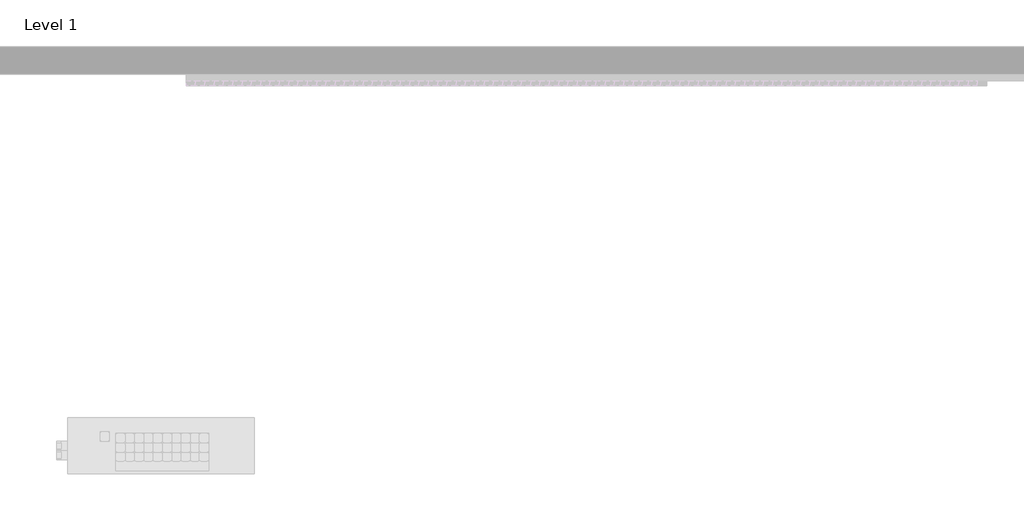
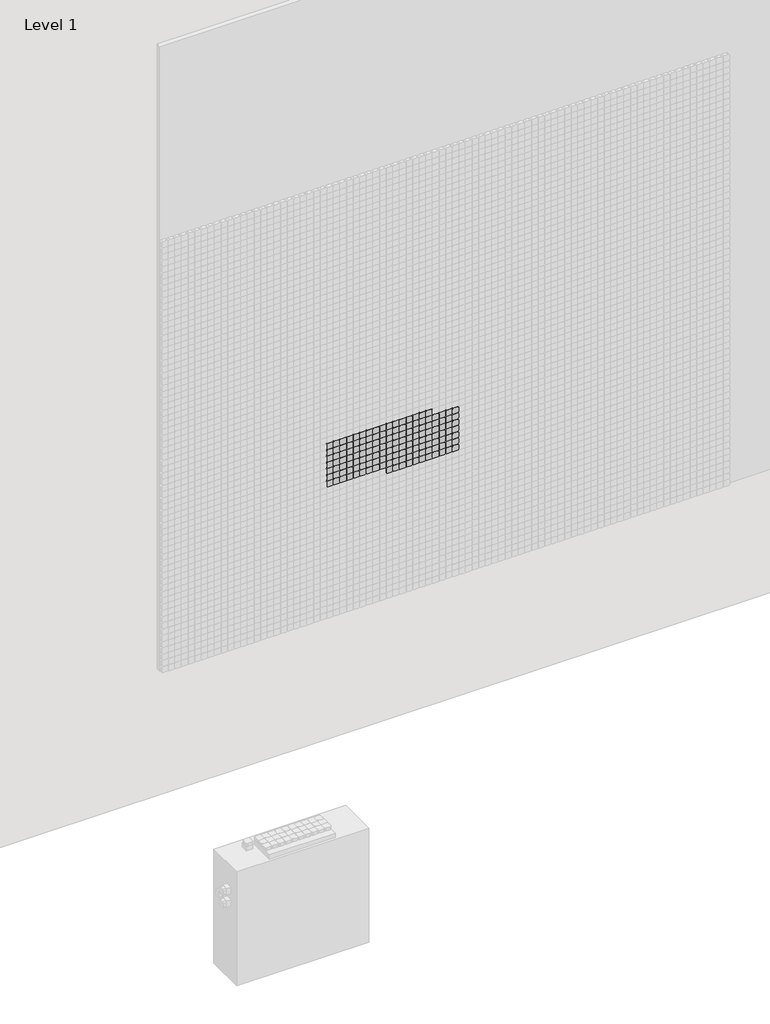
# One storey, part 31 of 71: 147 proxies.
"""IFC4 building model written with IfcOpenShell, lengths in millimetres."""

from ifc_helpers import new_model, si_unit, origin, place, context, project, spatial, transform, mapped, element, save
from components import generic_models_afde289c

model = new_model("IFC4")

# Units and contexts
model_context = context("Model", 3, world=origin())
ifc_project = project(units=[si_unit("LENGTHUNIT", "METRE", prefix="MILLI")], contexts=[model_context])

# Site, building, storey
site = spatial("IfcSite", under=ifc_project)
building = spatial("IfcBuilding", under=site)
storey = spatial("IfcBuildingStorey", under=building, Name="Level 1", Elevation=0.0)

# Proxies
placement = place(None, origin())
generic_models_shape = generic_models_afde289c(model_context)
element("IfcBuildingElementProxy", 1, Name="Pixel_M : Pixel_M", ObjectType="Pixel_M : Pixel_M", at=placement, inside=storey, context=model_context, shape_type="MappedRepresentation", body=[
    mapped(generic_models_shape, transform((6762.4280941, -75.0, 2366.3566215), x_axis=(1.0, 0.0, 0.0), y_axis=(0.0, 0.0, 1.0), z_axis=(0.0, -1.0, 0.0))),
])
element("IfcBuildingElementProxy", 2, Name="Pixel_M : Pixel_M", ObjectType="Pixel_M : Pixel_M", at=placement, inside=storey, context=model_context, shape_type="MappedRepresentation", body=[
    mapped(generic_models_shape, transform((6712.4280941, -75.0, 2366.3566215), x_axis=(1.0, 0.0, 0.0), y_axis=(0.0, 0.0, 1.0), z_axis=(0.0, -1.0, 0.0))),
])
element("IfcBuildingElementProxy", 3, Name="Pixel_M : Pixel_M", ObjectType="Pixel_M : Pixel_M", at=placement, inside=storey, context=model_context, shape_type="MappedRepresentation", body=[
    mapped(generic_models_shape, transform((6662.4280941, -75.0, 2366.3566215), x_axis=(1.0, 0.0, 0.0), y_axis=(0.0, 0.0, 1.0), z_axis=(0.0, -1.0, 0.0))),
])
element("IfcBuildingElementProxy", 4, Name="Pixel_M : Pixel_M", ObjectType="Pixel_M : Pixel_M", at=placement, inside=storey, context=model_context, shape_type="MappedRepresentation", body=[
    mapped(generic_models_shape, transform((6612.4280941, -75.0, 2366.3566215), x_axis=(1.0, 0.0, 0.0), y_axis=(0.0, 0.0, 1.0), z_axis=(0.0, -1.0, 0.0))),
])
element("IfcBuildingElementProxy", 5, Name="Pixel_M : Pixel_M", ObjectType="Pixel_M : Pixel_M", at=placement, inside=storey, context=model_context, shape_type="MappedRepresentation", body=[
    mapped(generic_models_shape, transform((6562.4280941, -75.0, 2366.3566215), x_axis=(1.0, 0.0, 0.0), y_axis=(0.0, 0.0, 1.0), z_axis=(0.0, -1.0, 0.0))),
])
element("IfcBuildingElementProxy", 6, Name="Pixel_M : Pixel_M", ObjectType="Pixel_M : Pixel_M", at=placement, inside=storey, context=model_context, shape_type="MappedRepresentation", body=[
    mapped(generic_models_shape, transform((6512.4280941, -75.0, 2366.3566215), x_axis=(1.0, 0.0, 0.0), y_axis=(0.0, 0.0, 1.0), z_axis=(0.0, -1.0, 0.0))),
])
element("IfcBuildingElementProxy", 7, Name="Pixel_M : Pixel_M", ObjectType="Pixel_M : Pixel_M", at=placement, inside=storey, context=model_context, shape_type="MappedRepresentation", body=[
    mapped(generic_models_shape, transform((6462.4280941, -75.0, 2366.3566215), x_axis=(1.0, 0.0, 0.0), y_axis=(0.0, 0.0, 1.0), z_axis=(0.0, -1.0, 0.0))),
])
element("IfcBuildingElementProxy", 8, Name="Pixel_M : Pixel_M", ObjectType="Pixel_M : Pixel_M", at=placement, inside=storey, context=model_context, shape_type="MappedRepresentation", body=[
    mapped(generic_models_shape, transform((6412.4280941, -75.0, 2366.3566215), x_axis=(1.0, 0.0, 0.0), y_axis=(0.0, 0.0, 1.0), z_axis=(0.0, -1.0, 0.0))),
])
element("IfcBuildingElementProxy", 9, Name="Pixel_M : Pixel_M", ObjectType="Pixel_M : Pixel_M", at=placement, inside=storey, context=model_context, shape_type="MappedRepresentation", body=[
    mapped(generic_models_shape, transform((6362.4280941, -75.0, 2366.3566215), x_axis=(1.0, 0.0, 0.0), y_axis=(0.0, 0.0, 1.0), z_axis=(0.0, -1.0, 0.0))),
])
element("IfcBuildingElementProxy", 10, Name="Pixel_M : Pixel_M", ObjectType="Pixel_M : Pixel_M", at=placement, inside=storey, context=model_context, shape_type="MappedRepresentation", body=[
    mapped(generic_models_shape, transform((6312.4280941, -75.0, 2366.3566215), x_axis=(1.0, 0.0, 0.0), y_axis=(0.0, 0.0, 1.0), z_axis=(0.0, -1.0, 0.0))),
])
element("IfcBuildingElementProxy", 11, Name="Pixel_M : Pixel_M", ObjectType="Pixel_M : Pixel_M", at=placement, inside=storey, context=model_context, shape_type="MappedRepresentation", body=[
    mapped(generic_models_shape, transform((6262.4280941, -75.0, 2366.3566215), x_axis=(1.0, 0.0, 0.0), y_axis=(0.0, 0.0, 1.0), z_axis=(0.0, -1.0, 0.0))),
])
element("IfcBuildingElementProxy", 12, Name="Pixel_M : Pixel_M", ObjectType="Pixel_M : Pixel_M", at=placement, inside=storey, context=model_context, shape_type="MappedRepresentation", body=[
    mapped(generic_models_shape, transform((6212.4280941, -75.0, 2366.3566215), x_axis=(1.0, 0.0, 0.0), y_axis=(0.0, 0.0, 1.0), z_axis=(0.0, -1.0, 0.0))),
])
element("IfcBuildingElementProxy", 13, Name="Pixel_M : Pixel_M", ObjectType="Pixel_M : Pixel_M", at=placement, inside=storey, context=model_context, shape_type="MappedRepresentation", body=[
    mapped(generic_models_shape, transform((6162.4280941, -75.0, 2366.3566215), x_axis=(1.0, 0.0, 0.0), y_axis=(0.0, 0.0, 1.0), z_axis=(0.0, -1.0, 0.0))),
])
element("IfcBuildingElementProxy", 14, Name="Pixel_M : Pixel_M", ObjectType="Pixel_M : Pixel_M", at=placement, inside=storey, context=model_context, shape_type="MappedRepresentation", body=[
    mapped(generic_models_shape, transform((6112.4280941, -75.0, 2366.3566215), x_axis=(1.0, 0.0, 0.0), y_axis=(0.0, 0.0, 1.0), z_axis=(0.0, -1.0, 0.0))),
])
element("IfcBuildingElementProxy", 15, Name="Pixel_M : Pixel_M", ObjectType="Pixel_M : Pixel_M", at=placement, inside=storey, context=model_context, shape_type="MappedRepresentation", body=[
    mapped(generic_models_shape, transform((6062.4280941, -75.0, 2366.3566215), x_axis=(1.0, 0.0, 0.0), y_axis=(0.0, 0.0, 1.0), z_axis=(0.0, -1.0, 0.0))),
])
element("IfcBuildingElementProxy", 16, Name="Pixel_M : Pixel_M", ObjectType="Pixel_M : Pixel_M", at=placement, inside=storey, context=model_context, shape_type="MappedRepresentation", body=[
    mapped(generic_models_shape, transform((6012.4280941, -75.0, 2366.3566215), x_axis=(1.0, 0.0, 0.0), y_axis=(0.0, 0.0, 1.0), z_axis=(0.0, -1.0, 0.0))),
])
element("IfcBuildingElementProxy", 17, Name="Pixel_M : Pixel_M", ObjectType="Pixel_M : Pixel_M", at=placement, inside=storey, context=model_context, shape_type="MappedRepresentation", body=[
    mapped(generic_models_shape, transform((6962.4280941, -75.0, 2316.3566215), x_axis=(1.0, 0.0, 0.0), y_axis=(0.0, 0.0, 1.0), z_axis=(0.0, -1.0, 0.0))),
])
element("IfcBuildingElementProxy", 18, Name="Pixel_M : Pixel_M", ObjectType="Pixel_M : Pixel_M", at=placement, inside=storey, context=model_context, shape_type="MappedRepresentation", body=[
    mapped(generic_models_shape, transform((6912.4280941, -75.0, 2316.3566215), x_axis=(1.0, 0.0, 0.0), y_axis=(0.0, 0.0, 1.0), z_axis=(0.0, -1.0, 0.0))),
])
element("IfcBuildingElementProxy", 19, Name="Pixel_M : Pixel_M", ObjectType="Pixel_M : Pixel_M", at=placement, inside=storey, context=model_context, shape_type="MappedRepresentation", body=[
    mapped(generic_models_shape, transform((6862.4280941, -75.0, 2316.3566215), x_axis=(1.0, 0.0, 0.0), y_axis=(0.0, 0.0, 1.0), z_axis=(0.0, -1.0, 0.0))),
])
element("IfcBuildingElementProxy", 20, Name="Pixel_M : Pixel_M", ObjectType="Pixel_M : Pixel_M", at=placement, inside=storey, context=model_context, shape_type="MappedRepresentation", body=[
    mapped(generic_models_shape, transform((6812.4280941, -75.0, 2316.3566215), x_axis=(1.0, 0.0, 0.0), y_axis=(0.0, 0.0, 1.0), z_axis=(0.0, -1.0, 0.0))),
])
element("IfcBuildingElementProxy", 21, Name="Pixel_M : Pixel_M", ObjectType="Pixel_M : Pixel_M", at=placement, inside=storey, context=model_context, shape_type="MappedRepresentation", body=[
    mapped(generic_models_shape, transform((6762.4280941, -75.0, 2316.3566215), x_axis=(1.0, 0.0, 0.0), y_axis=(0.0, 0.0, 1.0), z_axis=(0.0, -1.0, 0.0))),
])
element("IfcBuildingElementProxy", 22, Name="Pixel_M : Pixel_M", ObjectType="Pixel_M : Pixel_M", at=placement, inside=storey, context=model_context, shape_type="MappedRepresentation", body=[
    mapped(generic_models_shape, transform((6712.4280941, -75.0, 2316.3566215), x_axis=(1.0, 0.0, 0.0), y_axis=(0.0, 0.0, 1.0), z_axis=(0.0, -1.0, 0.0))),
])
element("IfcBuildingElementProxy", 23, Name="Pixel_M : Pixel_M", ObjectType="Pixel_M : Pixel_M", at=placement, inside=storey, context=model_context, shape_type="MappedRepresentation", body=[
    mapped(generic_models_shape, transform((6662.4280941, -75.0, 2316.3566215), x_axis=(1.0, 0.0, 0.0), y_axis=(0.0, 0.0, 1.0), z_axis=(0.0, -1.0, 0.0))),
])
element("IfcBuildingElementProxy", 24, Name="Pixel_M : Pixel_M", ObjectType="Pixel_M : Pixel_M", at=placement, inside=storey, context=model_context, shape_type="MappedRepresentation", body=[
    mapped(generic_models_shape, transform((6612.4280941, -75.0, 2316.3566215), x_axis=(1.0, 0.0, 0.0), y_axis=(0.0, 0.0, 1.0), z_axis=(0.0, -1.0, 0.0))),
])
element("IfcBuildingElementProxy", 25, Name="Pixel_M : Pixel_M", ObjectType="Pixel_M : Pixel_M", at=placement, inside=storey, context=model_context, shape_type="MappedRepresentation", body=[
    mapped(generic_models_shape, transform((6562.4280941, -75.0, 2316.3566215), x_axis=(1.0, 0.0, 0.0), y_axis=(0.0, 0.0, 1.0), z_axis=(0.0, -1.0, 0.0))),
])
element("IfcBuildingElementProxy", 26, Name="Pixel_M : Pixel_M", ObjectType="Pixel_M : Pixel_M", at=placement, inside=storey, context=model_context, shape_type="MappedRepresentation", body=[
    mapped(generic_models_shape, transform((6512.4280941, -75.0, 2316.3566215), x_axis=(1.0, 0.0, 0.0), y_axis=(0.0, 0.0, 1.0), z_axis=(0.0, -1.0, 0.0))),
])
element("IfcBuildingElementProxy", 27, Name="Pixel_M : Pixel_M", ObjectType="Pixel_M : Pixel_M", at=placement, inside=storey, context=model_context, shape_type="MappedRepresentation", body=[
    mapped(generic_models_shape, transform((6462.4280941, -75.0, 2316.3566215), x_axis=(1.0, 0.0, 0.0), y_axis=(0.0, 0.0, 1.0), z_axis=(0.0, -1.0, 0.0))),
])
element("IfcBuildingElementProxy", 28, Name="Pixel_M : Pixel_M", ObjectType="Pixel_M : Pixel_M", at=placement, inside=storey, context=model_context, shape_type="MappedRepresentation", body=[
    mapped(generic_models_shape, transform((6412.4280941, -75.0, 2316.3566215), x_axis=(1.0, 0.0, 0.0), y_axis=(0.0, 0.0, 1.0), z_axis=(0.0, -1.0, 0.0))),
])
element("IfcBuildingElementProxy", 29, Name="Pixel_M : Pixel_M", ObjectType="Pixel_M : Pixel_M", at=placement, inside=storey, context=model_context, shape_type="MappedRepresentation", body=[
    mapped(generic_models_shape, transform((6362.4280941, -75.0, 2316.3566215), x_axis=(1.0, 0.0, 0.0), y_axis=(0.0, 0.0, 1.0), z_axis=(0.0, -1.0, 0.0))),
])
element("IfcBuildingElementProxy", 30, Name="Pixel_M : Pixel_M", ObjectType="Pixel_M : Pixel_M", at=placement, inside=storey, context=model_context, shape_type="MappedRepresentation", body=[
    mapped(generic_models_shape, transform((6312.4280941, -75.0, 2316.3566215), x_axis=(1.0, 0.0, 0.0), y_axis=(0.0, 0.0, 1.0), z_axis=(0.0, -1.0, 0.0))),
])
element("IfcBuildingElementProxy", 31, Name="Pixel_M : Pixel_M", ObjectType="Pixel_M : Pixel_M", at=placement, inside=storey, context=model_context, shape_type="MappedRepresentation", body=[
    mapped(generic_models_shape, transform((6262.4280941, -75.0, 2316.3566215), x_axis=(1.0, 0.0, 0.0), y_axis=(0.0, 0.0, 1.0), z_axis=(0.0, -1.0, 0.0))),
])
element("IfcBuildingElementProxy", 32, Name="Pixel_M : Pixel_M", ObjectType="Pixel_M : Pixel_M", at=placement, inside=storey, context=model_context, shape_type="MappedRepresentation", body=[
    mapped(generic_models_shape, transform((6212.4280941, -75.0, 2316.3566215), x_axis=(1.0, 0.0, 0.0), y_axis=(0.0, 0.0, 1.0), z_axis=(0.0, -1.0, 0.0))),
])
element("IfcBuildingElementProxy", 33, Name="Pixel_M : Pixel_M", ObjectType="Pixel_M : Pixel_M", at=placement, inside=storey, context=model_context, shape_type="MappedRepresentation", body=[
    mapped(generic_models_shape, transform((6162.4280941, -75.0, 2316.3566215), x_axis=(1.0, 0.0, 0.0), y_axis=(0.0, 0.0, 1.0), z_axis=(0.0, -1.0, 0.0))),
])
element("IfcBuildingElementProxy", 34, Name="Pixel_M : Pixel_M", ObjectType="Pixel_M : Pixel_M", at=placement, inside=storey, context=model_context, shape_type="MappedRepresentation", body=[
    mapped(generic_models_shape, transform((6112.4280941, -75.0, 2316.3566215), x_axis=(1.0, 0.0, 0.0), y_axis=(0.0, 0.0, 1.0), z_axis=(0.0, -1.0, 0.0))),
])
element("IfcBuildingElementProxy", 35, Name="Pixel_M : Pixel_M", ObjectType="Pixel_M : Pixel_M", at=placement, inside=storey, context=model_context, shape_type="MappedRepresentation", body=[
    mapped(generic_models_shape, transform((6062.4280941, -75.0, 2316.3566215), x_axis=(1.0, 0.0, 0.0), y_axis=(0.0, 0.0, 1.0), z_axis=(0.0, -1.0, 0.0))),
])
element("IfcBuildingElementProxy", 36, Name="Pixel_M : Pixel_M", ObjectType="Pixel_M : Pixel_M", at=placement, inside=storey, context=model_context, shape_type="MappedRepresentation", body=[
    mapped(generic_models_shape, transform((6012.4280941, -75.0, 2316.3566215), x_axis=(1.0, 0.0, 0.0), y_axis=(0.0, 0.0, 1.0), z_axis=(0.0, -1.0, 0.0))),
])
element("IfcBuildingElementProxy", 37, Name="Pixel_M : Pixel_M", ObjectType="Pixel_M : Pixel_M", at=placement, inside=storey, context=model_context, shape_type="MappedRepresentation", body=[
    mapped(generic_models_shape, transform((6962.4280941, -75.0, 2266.3566215), x_axis=(1.0, 0.0, 0.0), y_axis=(0.0, 0.0, 1.0), z_axis=(0.0, -1.0, 0.0))),
])
element("IfcBuildingElementProxy", 38, Name="Pixel_M : Pixel_M", ObjectType="Pixel_M : Pixel_M", at=placement, inside=storey, context=model_context, shape_type="MappedRepresentation", body=[
    mapped(generic_models_shape, transform((6912.4280941, -75.0, 2266.3566215), x_axis=(1.0, 0.0, 0.0), y_axis=(0.0, 0.0, 1.0), z_axis=(0.0, -1.0, 0.0))),
])
element("IfcBuildingElementProxy", 39, Name="Pixel_M : Pixel_M", ObjectType="Pixel_M : Pixel_M", at=placement, inside=storey, context=model_context, shape_type="MappedRepresentation", body=[
    mapped(generic_models_shape, transform((6862.4280941, -75.0, 2266.3566215), x_axis=(1.0, 0.0, 0.0), y_axis=(0.0, 0.0, 1.0), z_axis=(0.0, -1.0, 0.0))),
])
element("IfcBuildingElementProxy", 40, Name="Pixel_M : Pixel_M", ObjectType="Pixel_M : Pixel_M", at=placement, inside=storey, context=model_context, shape_type="MappedRepresentation", body=[
    mapped(generic_models_shape, transform((6812.4280941, -75.0, 2266.3566215), x_axis=(1.0, 0.0, 0.0), y_axis=(0.0, 0.0, 1.0), z_axis=(0.0, -1.0, 0.0))),
])
element("IfcBuildingElementProxy", 41, Name="Pixel_M : Pixel_M", ObjectType="Pixel_M : Pixel_M", at=placement, inside=storey, context=model_context, shape_type="MappedRepresentation", body=[
    mapped(generic_models_shape, transform((6762.4280941, -75.0, 2266.3566215), x_axis=(1.0, 0.0, 0.0), y_axis=(0.0, 0.0, 1.0), z_axis=(0.0, -1.0, 0.0))),
])
element("IfcBuildingElementProxy", 42, Name="Pixel_M : Pixel_M", ObjectType="Pixel_M : Pixel_M", at=placement, inside=storey, context=model_context, shape_type="MappedRepresentation", body=[
    mapped(generic_models_shape, transform((6712.4280941, -75.0, 2266.3566215), x_axis=(1.0, 0.0, 0.0), y_axis=(0.0, 0.0, 1.0), z_axis=(0.0, -1.0, 0.0))),
])
element("IfcBuildingElementProxy", 43, Name="Pixel_M : Pixel_M", ObjectType="Pixel_M : Pixel_M", at=placement, inside=storey, context=model_context, shape_type="MappedRepresentation", body=[
    mapped(generic_models_shape, transform((6662.4280941, -75.0, 2266.3566215), x_axis=(1.0, 0.0, 0.0), y_axis=(0.0, 0.0, 1.0), z_axis=(0.0, -1.0, 0.0))),
])
element("IfcBuildingElementProxy", 44, Name="Pixel_M : Pixel_M", ObjectType="Pixel_M : Pixel_M", at=placement, inside=storey, context=model_context, shape_type="MappedRepresentation", body=[
    mapped(generic_models_shape, transform((6612.4280941, -75.0, 2266.3566215), x_axis=(1.0, 0.0, 0.0), y_axis=(0.0, 0.0, 1.0), z_axis=(0.0, -1.0, 0.0))),
])
element("IfcBuildingElementProxy", 45, Name="Pixel_M : Pixel_M", ObjectType="Pixel_M : Pixel_M", at=placement, inside=storey, context=model_context, shape_type="MappedRepresentation", body=[
    mapped(generic_models_shape, transform((6562.4280941, -75.0, 2266.3566215), x_axis=(1.0, 0.0, 0.0), y_axis=(0.0, 0.0, 1.0), z_axis=(0.0, -1.0, 0.0))),
])
element("IfcBuildingElementProxy", 46, Name="Pixel_M : Pixel_M", ObjectType="Pixel_M : Pixel_M", at=placement, inside=storey, context=model_context, shape_type="MappedRepresentation", body=[
    mapped(generic_models_shape, transform((6512.4280941, -75.0, 2266.3566215), x_axis=(1.0, 0.0, 0.0), y_axis=(0.0, 0.0, 1.0), z_axis=(0.0, -1.0, 0.0))),
])
element("IfcBuildingElementProxy", 47, Name="Pixel_M : Pixel_M", ObjectType="Pixel_M : Pixel_M", at=placement, inside=storey, context=model_context, shape_type="MappedRepresentation", body=[
    mapped(generic_models_shape, transform((6462.4280941, -75.0, 2266.3566215), x_axis=(1.0, 0.0, 0.0), y_axis=(0.0, 0.0, 1.0), z_axis=(0.0, -1.0, 0.0))),
])
element("IfcBuildingElementProxy", 48, Name="Pixel_M : Pixel_M", ObjectType="Pixel_M : Pixel_M", at=placement, inside=storey, context=model_context, shape_type="MappedRepresentation", body=[
    mapped(generic_models_shape, transform((6412.4280941, -75.0, 2266.3566215), x_axis=(1.0, 0.0, 0.0), y_axis=(0.0, 0.0, 1.0), z_axis=(0.0, -1.0, 0.0))),
])
element("IfcBuildingElementProxy", 49, Name="Pixel_M : Pixel_M", ObjectType="Pixel_M : Pixel_M", at=placement, inside=storey, context=model_context, shape_type="MappedRepresentation", body=[
    mapped(generic_models_shape, transform((6362.4280941, -75.0, 2266.3566215), x_axis=(1.0, 0.0, 0.0), y_axis=(0.0, 0.0, 1.0), z_axis=(0.0, -1.0, 0.0))),
])
element("IfcBuildingElementProxy", 50, Name="Pixel_M : Pixel_M", ObjectType="Pixel_M : Pixel_M", at=placement, inside=storey, context=model_context, shape_type="MappedRepresentation", body=[
    mapped(generic_models_shape, transform((6312.4280941, -75.0, 2266.3566215), x_axis=(1.0, 0.0, 0.0), y_axis=(0.0, 0.0, 1.0), z_axis=(0.0, -1.0, 0.0))),
])
element("IfcBuildingElementProxy", 51, Name="Pixel_M : Pixel_M", ObjectType="Pixel_M : Pixel_M", at=placement, inside=storey, context=model_context, shape_type="MappedRepresentation", body=[
    mapped(generic_models_shape, transform((6262.4280941, -75.0, 2266.3566215), x_axis=(1.0, 0.0, 0.0), y_axis=(0.0, 0.0, 1.0), z_axis=(0.0, -1.0, 0.0))),
])
element("IfcBuildingElementProxy", 52, Name="Pixel_M : Pixel_M", ObjectType="Pixel_M : Pixel_M", at=placement, inside=storey, context=model_context, shape_type="MappedRepresentation", body=[
    mapped(generic_models_shape, transform((6212.4280941, -75.0, 2266.3566215), x_axis=(1.0, 0.0, 0.0), y_axis=(0.0, 0.0, 1.0), z_axis=(0.0, -1.0, 0.0))),
])
element("IfcBuildingElementProxy", 53, Name="Pixel_M : Pixel_M", ObjectType="Pixel_M : Pixel_M", at=placement, inside=storey, context=model_context, shape_type="MappedRepresentation", body=[
    mapped(generic_models_shape, transform((6162.4280941, -75.0, 2266.3566215), x_axis=(1.0, 0.0, 0.0), y_axis=(0.0, 0.0, 1.0), z_axis=(0.0, -1.0, 0.0))),
])
element("IfcBuildingElementProxy", 54, Name="Pixel_M : Pixel_M", ObjectType="Pixel_M : Pixel_M", at=placement, inside=storey, context=model_context, shape_type="MappedRepresentation", body=[
    mapped(generic_models_shape, transform((6112.4280941, -75.0, 2266.3566215), x_axis=(1.0, 0.0, 0.0), y_axis=(0.0, 0.0, 1.0), z_axis=(0.0, -1.0, 0.0))),
])
element("IfcBuildingElementProxy", 55, Name="Pixel_M : Pixel_M", ObjectType="Pixel_M : Pixel_M", at=placement, inside=storey, context=model_context, shape_type="MappedRepresentation", body=[
    mapped(generic_models_shape, transform((6062.4280941, -75.0, 2266.3566215), x_axis=(1.0, 0.0, 0.0), y_axis=(0.0, 0.0, 1.0), z_axis=(0.0, -1.0, 0.0))),
])
element("IfcBuildingElementProxy", 56, Name="Pixel_M : Pixel_M", ObjectType="Pixel_M : Pixel_M", at=placement, inside=storey, context=model_context, shape_type="MappedRepresentation", body=[
    mapped(generic_models_shape, transform((6012.4280941, -75.0, 2266.3566215), x_axis=(1.0, 0.0, 0.0), y_axis=(0.0, 0.0, 1.0), z_axis=(0.0, -1.0, 0.0))),
])
element("IfcBuildingElementProxy", 57, Name="Pixel_M : Pixel_M", ObjectType="Pixel_M : Pixel_M", at=placement, inside=storey, context=model_context, shape_type="MappedRepresentation", body=[
    mapped(generic_models_shape, transform((6962.4280941, -75.0, 2216.3566215), x_axis=(1.0, 0.0, 0.0), y_axis=(0.0, 0.0, 1.0), z_axis=(0.0, -1.0, 0.0))),
])
element("IfcBuildingElementProxy", 58, Name="Pixel_M : Pixel_M", ObjectType="Pixel_M : Pixel_M", at=placement, inside=storey, context=model_context, shape_type="MappedRepresentation", body=[
    mapped(generic_models_shape, transform((6912.4280941, -75.0, 2216.3566215), x_axis=(1.0, 0.0, 0.0), y_axis=(0.0, 0.0, 1.0), z_axis=(0.0, -1.0, 0.0))),
])
element("IfcBuildingElementProxy", 59, Name="Pixel_M : Pixel_M", ObjectType="Pixel_M : Pixel_M", at=placement, inside=storey, context=model_context, shape_type="MappedRepresentation", body=[
    mapped(generic_models_shape, transform((6862.4280941, -75.0, 2216.3566215), x_axis=(1.0, 0.0, 0.0), y_axis=(0.0, 0.0, 1.0), z_axis=(0.0, -1.0, 0.0))),
])
element("IfcBuildingElementProxy", 60, Name="Pixel_M : Pixel_M", ObjectType="Pixel_M : Pixel_M", at=placement, inside=storey, context=model_context, shape_type="MappedRepresentation", body=[
    mapped(generic_models_shape, transform((6812.4280941, -75.0, 2216.3566215), x_axis=(1.0, 0.0, 0.0), y_axis=(0.0, 0.0, 1.0), z_axis=(0.0, -1.0, 0.0))),
])
element("IfcBuildingElementProxy", 61, Name="Pixel_M : Pixel_M", ObjectType="Pixel_M : Pixel_M", at=placement, inside=storey, context=model_context, shape_type="MappedRepresentation", body=[
    mapped(generic_models_shape, transform((6762.4280941, -75.0, 2216.3566215), x_axis=(1.0, 0.0, 0.0), y_axis=(0.0, 0.0, 1.0), z_axis=(0.0, -1.0, 0.0))),
])
element("IfcBuildingElementProxy", 62, Name="Pixel_M : Pixel_M", ObjectType="Pixel_M : Pixel_M", at=placement, inside=storey, context=model_context, shape_type="MappedRepresentation", body=[
    mapped(generic_models_shape, transform((6712.4280941, -75.0, 2216.3566215), x_axis=(1.0, 0.0, 0.0), y_axis=(0.0, 0.0, 1.0), z_axis=(0.0, -1.0, 0.0))),
])
element("IfcBuildingElementProxy", 63, Name="Pixel_M : Pixel_M", ObjectType="Pixel_M : Pixel_M", at=placement, inside=storey, context=model_context, shape_type="MappedRepresentation", body=[
    mapped(generic_models_shape, transform((6662.4280941, -75.0, 2216.3566215), x_axis=(1.0, 0.0, 0.0), y_axis=(0.0, 0.0, 1.0), z_axis=(0.0, -1.0, 0.0))),
])
element("IfcBuildingElementProxy", 64, Name="Pixel_M : Pixel_M", ObjectType="Pixel_M : Pixel_M", at=placement, inside=storey, context=model_context, shape_type="MappedRepresentation", body=[
    mapped(generic_models_shape, transform((6612.4280941, -75.0, 2216.3566215), x_axis=(1.0, 0.0, 0.0), y_axis=(0.0, 0.0, 1.0), z_axis=(0.0, -1.0, 0.0))),
])
element("IfcBuildingElementProxy", 65, Name="Pixel_M : Pixel_M", ObjectType="Pixel_M : Pixel_M", at=placement, inside=storey, context=model_context, shape_type="MappedRepresentation", body=[
    mapped(generic_models_shape, transform((6562.4280941, -75.0, 2216.3566215), x_axis=(1.0, 0.0, 0.0), y_axis=(0.0, 0.0, 1.0), z_axis=(0.0, -1.0, 0.0))),
])
element("IfcBuildingElementProxy", 66, Name="Pixel_M : Pixel_M", ObjectType="Pixel_M : Pixel_M", at=placement, inside=storey, context=model_context, shape_type="MappedRepresentation", body=[
    mapped(generic_models_shape, transform((6512.4280941, -75.0, 2216.3566215), x_axis=(1.0, 0.0, 0.0), y_axis=(0.0, 0.0, 1.0), z_axis=(0.0, -1.0, 0.0))),
])
element("IfcBuildingElementProxy", 67, Name="Pixel_M : Pixel_M", ObjectType="Pixel_M : Pixel_M", at=placement, inside=storey, context=model_context, shape_type="MappedRepresentation", body=[
    mapped(generic_models_shape, transform((6462.4280941, -75.0, 2216.3566215), x_axis=(1.0, 0.0, 0.0), y_axis=(0.0, 0.0, 1.0), z_axis=(0.0, -1.0, 0.0))),
])
element("IfcBuildingElementProxy", 68, Name="Pixel_M : Pixel_M", ObjectType="Pixel_M : Pixel_M", at=placement, inside=storey, context=model_context, shape_type="MappedRepresentation", body=[
    mapped(generic_models_shape, transform((6412.4280941, -75.0, 2216.3566215), x_axis=(1.0, 0.0, 0.0), y_axis=(0.0, 0.0, 1.0), z_axis=(0.0, -1.0, 0.0))),
])
element("IfcBuildingElementProxy", 69, Name="Pixel_M : Pixel_M", ObjectType="Pixel_M : Pixel_M", at=placement, inside=storey, context=model_context, shape_type="MappedRepresentation", body=[
    mapped(generic_models_shape, transform((6362.4280941, -75.0, 2216.3566215), x_axis=(1.0, 0.0, 0.0), y_axis=(0.0, 0.0, 1.0), z_axis=(0.0, -1.0, 0.0))),
])
element("IfcBuildingElementProxy", 70, Name="Pixel_M : Pixel_M", ObjectType="Pixel_M : Pixel_M", at=placement, inside=storey, context=model_context, shape_type="MappedRepresentation", body=[
    mapped(generic_models_shape, transform((6312.4280941, -75.0, 2216.3566215), x_axis=(1.0, 0.0, 0.0), y_axis=(0.0, 0.0, 1.0), z_axis=(0.0, -1.0, 0.0))),
])
element("IfcBuildingElementProxy", 71, Name="Pixel_M : Pixel_M", ObjectType="Pixel_M : Pixel_M", at=placement, inside=storey, context=model_context, shape_type="MappedRepresentation", body=[
    mapped(generic_models_shape, transform((6262.4280941, -75.0, 2216.3566215), x_axis=(1.0, 0.0, 0.0), y_axis=(0.0, 0.0, 1.0), z_axis=(0.0, -1.0, 0.0))),
])
element("IfcBuildingElementProxy", 72, Name="Pixel_M : Pixel_M", ObjectType="Pixel_M : Pixel_M", at=placement, inside=storey, context=model_context, shape_type="MappedRepresentation", body=[
    mapped(generic_models_shape, transform((6212.4280941, -75.0, 2216.3566215), x_axis=(1.0, 0.0, 0.0), y_axis=(0.0, 0.0, 1.0), z_axis=(0.0, -1.0, 0.0))),
])
element("IfcBuildingElementProxy", 73, Name="Pixel_M : Pixel_M", ObjectType="Pixel_M : Pixel_M", at=placement, inside=storey, context=model_context, shape_type="MappedRepresentation", body=[
    mapped(generic_models_shape, transform((6162.4280941, -75.0, 2216.3566215), x_axis=(1.0, 0.0, 0.0), y_axis=(0.0, 0.0, 1.0), z_axis=(0.0, -1.0, 0.0))),
])
element("IfcBuildingElementProxy", 74, Name="Pixel_M : Pixel_M", ObjectType="Pixel_M : Pixel_M", at=placement, inside=storey, context=model_context, shape_type="MappedRepresentation", body=[
    mapped(generic_models_shape, transform((6112.4280941, -75.0, 2216.3566215), x_axis=(1.0, 0.0, 0.0), y_axis=(0.0, 0.0, 1.0), z_axis=(0.0, -1.0, 0.0))),
])
element("IfcBuildingElementProxy", 75, Name="Pixel_M : Pixel_M", ObjectType="Pixel_M : Pixel_M", at=placement, inside=storey, context=model_context, shape_type="MappedRepresentation", body=[
    mapped(generic_models_shape, transform((6062.4280941, -75.0, 2216.3566215), x_axis=(1.0, 0.0, 0.0), y_axis=(0.0, 0.0, 1.0), z_axis=(0.0, -1.0, 0.0))),
])
element("IfcBuildingElementProxy", 76, Name="Pixel_M : Pixel_M", ObjectType="Pixel_M : Pixel_M", at=placement, inside=storey, context=model_context, shape_type="MappedRepresentation", body=[
    mapped(generic_models_shape, transform((6012.4280941, -75.0, 2216.3566215), x_axis=(1.0, 0.0, 0.0), y_axis=(0.0, 0.0, 1.0), z_axis=(0.0, -1.0, 0.0))),
])
element("IfcBuildingElementProxy", 77, Name="Pixel_M : Pixel_M", ObjectType="Pixel_M : Pixel_M", at=placement, inside=storey, context=model_context, shape_type="MappedRepresentation", body=[
    mapped(generic_models_shape, transform((6962.4280941, -75.0, 2166.3566215), x_axis=(1.0, 0.0, 0.0), y_axis=(0.0, 0.0, 1.0), z_axis=(0.0, -1.0, 0.0))),
])
element("IfcBuildingElementProxy", 78, Name="Pixel_M : Pixel_M", ObjectType="Pixel_M : Pixel_M", at=placement, inside=storey, context=model_context, shape_type="MappedRepresentation", body=[
    mapped(generic_models_shape, transform((6912.4280941, -75.0, 2166.3566215), x_axis=(1.0, 0.0, 0.0), y_axis=(0.0, 0.0, 1.0), z_axis=(0.0, -1.0, 0.0))),
])
element("IfcBuildingElementProxy", 79, Name="Pixel_M : Pixel_M", ObjectType="Pixel_M : Pixel_M", at=placement, inside=storey, context=model_context, shape_type="MappedRepresentation", body=[
    mapped(generic_models_shape, transform((6862.4280941, -75.0, 2166.3566215), x_axis=(1.0, 0.0, 0.0), y_axis=(0.0, 0.0, 1.0), z_axis=(0.0, -1.0, 0.0))),
])
element("IfcBuildingElementProxy", 80, Name="Pixel_M : Pixel_M", ObjectType="Pixel_M : Pixel_M", at=placement, inside=storey, context=model_context, shape_type="MappedRepresentation", body=[
    mapped(generic_models_shape, transform((6812.4280941, -75.0, 2166.3566215), x_axis=(1.0, 0.0, 0.0), y_axis=(0.0, 0.0, 1.0), z_axis=(0.0, -1.0, 0.0))),
])
element("IfcBuildingElementProxy", 81, Name="Pixel_M : Pixel_M", ObjectType="Pixel_M : Pixel_M", at=placement, inside=storey, context=model_context, shape_type="MappedRepresentation", body=[
    mapped(generic_models_shape, transform((6762.4280941, -75.0, 2166.3566215), x_axis=(1.0, 0.0, 0.0), y_axis=(0.0, 0.0, 1.0), z_axis=(0.0, -1.0, 0.0))),
])
element("IfcBuildingElementProxy", 82, Name="Pixel_M : Pixel_M", ObjectType="Pixel_M : Pixel_M", at=placement, inside=storey, context=model_context, shape_type="MappedRepresentation", body=[
    mapped(generic_models_shape, transform((6712.4280941, -75.0, 2166.3566215), x_axis=(1.0, 0.0, 0.0), y_axis=(0.0, 0.0, 1.0), z_axis=(0.0, -1.0, 0.0))),
])
element("IfcBuildingElementProxy", 83, Name="Pixel_M : Pixel_M", ObjectType="Pixel_M : Pixel_M", at=placement, inside=storey, context=model_context, shape_type="MappedRepresentation", body=[
    mapped(generic_models_shape, transform((6662.4280941, -75.0, 2166.3566215), x_axis=(1.0, 0.0, 0.0), y_axis=(0.0, 0.0, 1.0), z_axis=(0.0, -1.0, 0.0))),
])
element("IfcBuildingElementProxy", 84, Name="Pixel_M : Pixel_M", ObjectType="Pixel_M : Pixel_M", at=placement, inside=storey, context=model_context, shape_type="MappedRepresentation", body=[
    mapped(generic_models_shape, transform((6612.4280941, -75.0, 2166.3566215), x_axis=(1.0, 0.0, 0.0), y_axis=(0.0, 0.0, 1.0), z_axis=(0.0, -1.0, 0.0))),
])
element("IfcBuildingElementProxy", 85, Name="Pixel_M : Pixel_M", ObjectType="Pixel_M : Pixel_M", at=placement, inside=storey, context=model_context, shape_type="MappedRepresentation", body=[
    mapped(generic_models_shape, transform((6562.4280941, -75.0, 2166.3566215), x_axis=(1.0, 0.0, 0.0), y_axis=(0.0, 0.0, 1.0), z_axis=(0.0, -1.0, 0.0))),
])
element("IfcBuildingElementProxy", 86, Name="Pixel_M : Pixel_M", ObjectType="Pixel_M : Pixel_M", at=placement, inside=storey, context=model_context, shape_type="MappedRepresentation", body=[
    mapped(generic_models_shape, transform((6512.4280941, -75.0, 2166.3566215), x_axis=(1.0, 0.0, 0.0), y_axis=(0.0, 0.0, 1.0), z_axis=(0.0, -1.0, 0.0))),
])
element("IfcBuildingElementProxy", 87, Name="Pixel_M : Pixel_M", ObjectType="Pixel_M : Pixel_M", at=placement, inside=storey, context=model_context, shape_type="MappedRepresentation", body=[
    mapped(generic_models_shape, transform((6462.4280941, -75.0, 2166.3566215), x_axis=(1.0, 0.0, 0.0), y_axis=(0.0, 0.0, 1.0), z_axis=(0.0, -1.0, 0.0))),
])
element("IfcBuildingElementProxy", 88, Name="Pixel_M : Pixel_M", ObjectType="Pixel_M : Pixel_M", at=placement, inside=storey, context=model_context, shape_type="MappedRepresentation", body=[
    mapped(generic_models_shape, transform((6412.4280941, -75.0, 2166.3566215), x_axis=(1.0, 0.0, 0.0), y_axis=(0.0, 0.0, 1.0), z_axis=(0.0, -1.0, 0.0))),
])
element("IfcBuildingElementProxy", 89, Name="Pixel_M : Pixel_M", ObjectType="Pixel_M : Pixel_M", at=placement, inside=storey, context=model_context, shape_type="MappedRepresentation", body=[
    mapped(generic_models_shape, transform((6362.4280941, -75.0, 2166.3566215), x_axis=(1.0, 0.0, 0.0), y_axis=(0.0, 0.0, 1.0), z_axis=(0.0, -1.0, 0.0))),
])
element("IfcBuildingElementProxy", 90, Name="Pixel_M : Pixel_M", ObjectType="Pixel_M : Pixel_M", at=placement, inside=storey, context=model_context, shape_type="MappedRepresentation", body=[
    mapped(generic_models_shape, transform((6312.4280941, -75.0, 2166.3566215), x_axis=(1.0, 0.0, 0.0), y_axis=(0.0, 0.0, 1.0), z_axis=(0.0, -1.0, 0.0))),
])
element("IfcBuildingElementProxy", 91, Name="Pixel_M : Pixel_M", ObjectType="Pixel_M : Pixel_M", at=placement, inside=storey, context=model_context, shape_type="MappedRepresentation", body=[
    mapped(generic_models_shape, transform((6262.4280941, -75.0, 2166.3566215), x_axis=(1.0, 0.0, 0.0), y_axis=(0.0, 0.0, 1.0), z_axis=(0.0, -1.0, 0.0))),
])
element("IfcBuildingElementProxy", 92, Name="Pixel_M : Pixel_M", ObjectType="Pixel_M : Pixel_M", at=placement, inside=storey, context=model_context, shape_type="MappedRepresentation", body=[
    mapped(generic_models_shape, transform((6212.4280941, -75.0, 2166.3566215), x_axis=(1.0, 0.0, 0.0), y_axis=(0.0, 0.0, 1.0), z_axis=(0.0, -1.0, 0.0))),
])
element("IfcBuildingElementProxy", 93, Name="Pixel_M : Pixel_M", ObjectType="Pixel_M : Pixel_M", at=placement, inside=storey, context=model_context, shape_type="MappedRepresentation", body=[
    mapped(generic_models_shape, transform((6162.4280941, -75.0, 2166.3566215), x_axis=(1.0, 0.0, 0.0), y_axis=(0.0, 0.0, 1.0), z_axis=(0.0, -1.0, 0.0))),
])
element("IfcBuildingElementProxy", 94, Name="Pixel_M : Pixel_M", ObjectType="Pixel_M : Pixel_M", at=placement, inside=storey, context=model_context, shape_type="MappedRepresentation", body=[
    mapped(generic_models_shape, transform((6112.4280941, -75.0, 2166.3566215), x_axis=(1.0, 0.0, 0.0), y_axis=(0.0, 0.0, 1.0), z_axis=(0.0, -1.0, 0.0))),
])
element("IfcBuildingElementProxy", 95, Name="Pixel_M : Pixel_M", ObjectType="Pixel_M : Pixel_M", at=placement, inside=storey, context=model_context, shape_type="MappedRepresentation", body=[
    mapped(generic_models_shape, transform((6062.4280941, -75.0, 2166.3566215), x_axis=(1.0, 0.0, 0.0), y_axis=(0.0, 0.0, 1.0), z_axis=(0.0, -1.0, 0.0))),
])
element("IfcBuildingElementProxy", 96, Name="Pixel_M : Pixel_M", ObjectType="Pixel_M : Pixel_M", at=placement, inside=storey, context=model_context, shape_type="MappedRepresentation", body=[
    mapped(generic_models_shape, transform((6012.4280941, -75.0, 2166.3566215), x_axis=(1.0, 0.0, 0.0), y_axis=(0.0, 0.0, 1.0), z_axis=(0.0, -1.0, 0.0))),
])
element("IfcBuildingElementProxy", 97, Name="Pixel_M : Pixel_M", ObjectType="Pixel_M : Pixel_M", at=placement, inside=storey, context=model_context, shape_type="MappedRepresentation", body=[
    mapped(generic_models_shape, transform((6962.4280941, -75.0, 2116.3566215), x_axis=(1.0, 0.0, 0.0), y_axis=(0.0, 0.0, 1.0), z_axis=(0.0, -1.0, 0.0))),
])
element("IfcBuildingElementProxy", 98, Name="Pixel_M : Pixel_M", ObjectType="Pixel_M : Pixel_M", at=placement, inside=storey, context=model_context, shape_type="MappedRepresentation", body=[
    mapped(generic_models_shape, transform((6912.4280941, -75.0, 2116.3566215), x_axis=(1.0, 0.0, 0.0), y_axis=(0.0, 0.0, 1.0), z_axis=(0.0, -1.0, 0.0))),
])
element("IfcBuildingElementProxy", 99, Name="Pixel_M : Pixel_M", ObjectType="Pixel_M : Pixel_M", at=placement, inside=storey, context=model_context, shape_type="MappedRepresentation", body=[
    mapped(generic_models_shape, transform((6862.4280941, -75.0, 2116.3566215), x_axis=(1.0, 0.0, 0.0), y_axis=(0.0, 0.0, 1.0), z_axis=(0.0, -1.0, 0.0))),
])
element("IfcBuildingElementProxy", 100, Name="Pixel_M : Pixel_M", ObjectType="Pixel_M : Pixel_M", at=placement, inside=storey, context=model_context, shape_type="MappedRepresentation", body=[
    mapped(generic_models_shape, transform((6812.4280941, -75.0, 2116.3566215), x_axis=(1.0, 0.0, 0.0), y_axis=(0.0, 0.0, 1.0), z_axis=(0.0, -1.0, 0.0))),
])
element("IfcBuildingElementProxy", 101, Name="Pixel_M : Pixel_M", ObjectType="Pixel_M : Pixel_M", at=placement, inside=storey, context=model_context, shape_type="MappedRepresentation", body=[
    mapped(generic_models_shape, transform((6762.4280941, -75.0, 2116.3566215), x_axis=(1.0, 0.0, 0.0), y_axis=(0.0, 0.0, 1.0), z_axis=(0.0, -1.0, 0.0))),
])
element("IfcBuildingElementProxy", 102, Name="Pixel_M : Pixel_M", ObjectType="Pixel_M : Pixel_M", at=placement, inside=storey, context=model_context, shape_type="MappedRepresentation", body=[
    mapped(generic_models_shape, transform((6712.4280941, -75.0, 2116.3566215), x_axis=(1.0, 0.0, 0.0), y_axis=(0.0, 0.0, 1.0), z_axis=(0.0, -1.0, 0.0))),
])
element("IfcBuildingElementProxy", 103, Name="Pixel_M : Pixel_M", ObjectType="Pixel_M : Pixel_M", at=placement, inside=storey, context=model_context, shape_type="MappedRepresentation", body=[
    mapped(generic_models_shape, transform((6662.4280941, -75.0, 2116.3566215), x_axis=(1.0, 0.0, 0.0), y_axis=(0.0, 0.0, 1.0), z_axis=(0.0, -1.0, 0.0))),
])
element("IfcBuildingElementProxy", 104, Name="Pixel_M : Pixel_M", ObjectType="Pixel_M : Pixel_M", at=placement, inside=storey, context=model_context, shape_type="MappedRepresentation", body=[
    mapped(generic_models_shape, transform((6612.4280941, -75.0, 2116.3566215), x_axis=(1.0, 0.0, 0.0), y_axis=(0.0, 0.0, 1.0), z_axis=(0.0, -1.0, 0.0))),
])
element("IfcBuildingElementProxy", 105, Name="Pixel_M : Pixel_M", ObjectType="Pixel_M : Pixel_M", at=placement, inside=storey, context=model_context, shape_type="MappedRepresentation", body=[
    mapped(generic_models_shape, transform((6562.4280941, -75.0, 2116.3566215), x_axis=(1.0, 0.0, 0.0), y_axis=(0.0, 0.0, 1.0), z_axis=(0.0, -1.0, 0.0))),
])
element("IfcBuildingElementProxy", 106, Name="Pixel_M : Pixel_M", ObjectType="Pixel_M : Pixel_M", at=placement, inside=storey, context=model_context, shape_type="MappedRepresentation", body=[
    mapped(generic_models_shape, transform((6512.4280941, -75.0, 2116.3566215), x_axis=(1.0, 0.0, 0.0), y_axis=(0.0, 0.0, 1.0), z_axis=(0.0, -1.0, 0.0))),
])
element("IfcBuildingElementProxy", 107, Name="Pixel_M : Pixel_M", ObjectType="Pixel_M : Pixel_M", at=placement, inside=storey, context=model_context, shape_type="MappedRepresentation", body=[
    mapped(generic_models_shape, transform((6462.4280941, -75.0, 2116.3566215), x_axis=(1.0, 0.0, 0.0), y_axis=(0.0, 0.0, 1.0), z_axis=(0.0, -1.0, 0.0))),
])
element("IfcBuildingElementProxy", 108, Name="Pixel_M : Pixel_M", ObjectType="Pixel_M : Pixel_M", at=placement, inside=storey, context=model_context, shape_type="MappedRepresentation", body=[
    mapped(generic_models_shape, transform((6412.4280941, -75.0, 2116.3566215), x_axis=(1.0, 0.0, 0.0), y_axis=(0.0, 0.0, 1.0), z_axis=(0.0, -1.0, 0.0))),
])
element("IfcBuildingElementProxy", 109, Name="Pixel_M : Pixel_M", ObjectType="Pixel_M : Pixel_M", at=placement, inside=storey, context=model_context, shape_type="MappedRepresentation", body=[
    mapped(generic_models_shape, transform((6362.4280941, -75.0, 2116.3566215), x_axis=(1.0, 0.0, 0.0), y_axis=(0.0, 0.0, 1.0), z_axis=(0.0, -1.0, 0.0))),
])
element("IfcBuildingElementProxy", 110, Name="Pixel_M : Pixel_M", ObjectType="Pixel_M : Pixel_M", at=placement, inside=storey, context=model_context, shape_type="MappedRepresentation", body=[
    mapped(generic_models_shape, transform((6312.4280941, -75.0, 2116.3566215), x_axis=(1.0, 0.0, 0.0), y_axis=(0.0, 0.0, 1.0), z_axis=(0.0, -1.0, 0.0))),
])
element("IfcBuildingElementProxy", 111, Name="Pixel_M : Pixel_M", ObjectType="Pixel_M : Pixel_M", at=placement, inside=storey, context=model_context, shape_type="MappedRepresentation", body=[
    mapped(generic_models_shape, transform((6262.4280941, -75.0, 2116.3566215), x_axis=(1.0, 0.0, 0.0), y_axis=(0.0, 0.0, 1.0), z_axis=(0.0, -1.0, 0.0))),
])
element("IfcBuildingElementProxy", 112, Name="Pixel_M : Pixel_M", ObjectType="Pixel_M : Pixel_M", at=placement, inside=storey, context=model_context, shape_type="MappedRepresentation", body=[
    mapped(generic_models_shape, transform((6212.4280941, -75.0, 2116.3566215), x_axis=(1.0, 0.0, 0.0), y_axis=(0.0, 0.0, 1.0), z_axis=(0.0, -1.0, 0.0))),
])
element("IfcBuildingElementProxy", 113, Name="Pixel_M : Pixel_M", ObjectType="Pixel_M : Pixel_M", at=placement, inside=storey, context=model_context, shape_type="MappedRepresentation", body=[
    mapped(generic_models_shape, transform((6162.4280941, -75.0, 2116.3566215), x_axis=(1.0, 0.0, 0.0), y_axis=(0.0, 0.0, 1.0), z_axis=(0.0, -1.0, 0.0))),
])
element("IfcBuildingElementProxy", 114, Name="Pixel_M : Pixel_M", ObjectType="Pixel_M : Pixel_M", at=placement, inside=storey, context=model_context, shape_type="MappedRepresentation", body=[
    mapped(generic_models_shape, transform((6112.4280941, -75.0, 2116.3566215), x_axis=(1.0, 0.0, 0.0), y_axis=(0.0, 0.0, 1.0), z_axis=(0.0, -1.0, 0.0))),
])
element("IfcBuildingElementProxy", 115, Name="Pixel_M : Pixel_M", ObjectType="Pixel_M : Pixel_M", at=placement, inside=storey, context=model_context, shape_type="MappedRepresentation", body=[
    mapped(generic_models_shape, transform((6062.4280941, -75.0, 2116.3566215), x_axis=(1.0, 0.0, 0.0), y_axis=(0.0, 0.0, 1.0), z_axis=(0.0, -1.0, 0.0))),
])
element("IfcBuildingElementProxy", 116, Name="Pixel_M : Pixel_M", ObjectType="Pixel_M : Pixel_M", at=placement, inside=storey, context=model_context, shape_type="MappedRepresentation", body=[
    mapped(generic_models_shape, transform((6012.4280941, -75.0, 2116.3566215), x_axis=(1.0, 0.0, 0.0), y_axis=(0.0, 0.0, 1.0), z_axis=(0.0, -1.0, 0.0))),
])
element("IfcBuildingElementProxy", 117, Name="Pixel_M : Pixel_M", ObjectType="Pixel_M : Pixel_M", at=placement, inside=storey, context=model_context, shape_type="MappedRepresentation", body=[
    mapped(generic_models_shape, transform((6962.4280941, -75.0, 2066.3566215), x_axis=(1.0, 0.0, 0.0), y_axis=(0.0, 0.0, 1.0), z_axis=(0.0, -1.0, 0.0))),
])
element("IfcBuildingElementProxy", 118, Name="Pixel_M : Pixel_M", ObjectType="Pixel_M : Pixel_M", at=placement, inside=storey, context=model_context, shape_type="MappedRepresentation", body=[
    mapped(generic_models_shape, transform((6912.4280941, -75.0, 2066.3566215), x_axis=(1.0, 0.0, 0.0), y_axis=(0.0, 0.0, 1.0), z_axis=(0.0, -1.0, 0.0))),
])
element("IfcBuildingElementProxy", 119, Name="Pixel_M : Pixel_M", ObjectType="Pixel_M : Pixel_M", at=placement, inside=storey, context=model_context, shape_type="MappedRepresentation", body=[
    mapped(generic_models_shape, transform((6862.4280941, -75.0, 2066.3566215), x_axis=(1.0, 0.0, 0.0), y_axis=(0.0, 0.0, 1.0), z_axis=(0.0, -1.0, 0.0))),
])
element("IfcBuildingElementProxy", 120, Name="Pixel_M : Pixel_M", ObjectType="Pixel_M : Pixel_M", at=placement, inside=storey, context=model_context, shape_type="MappedRepresentation", body=[
    mapped(generic_models_shape, transform((6812.4280941, -75.0, 2066.3566215), x_axis=(1.0, 0.0, 0.0), y_axis=(0.0, 0.0, 1.0), z_axis=(0.0, -1.0, 0.0))),
])
element("IfcBuildingElementProxy", 121, Name="Pixel_M : Pixel_M", ObjectType="Pixel_M : Pixel_M", at=placement, inside=storey, context=model_context, shape_type="MappedRepresentation", body=[
    mapped(generic_models_shape, transform((6762.4280941, -75.0, 2066.3566215), x_axis=(1.0, 0.0, 0.0), y_axis=(0.0, 0.0, 1.0), z_axis=(0.0, -1.0, 0.0))),
])
element("IfcBuildingElementProxy", 122, Name="Pixel_M : Pixel_M", ObjectType="Pixel_M : Pixel_M", at=placement, inside=storey, context=model_context, shape_type="MappedRepresentation", body=[
    mapped(generic_models_shape, transform((6712.4280941, -75.0, 2066.3566215), x_axis=(1.0, 0.0, 0.0), y_axis=(0.0, 0.0, 1.0), z_axis=(0.0, -1.0, 0.0))),
])
element("IfcBuildingElementProxy", 123, Name="Pixel_M : Pixel_M", ObjectType="Pixel_M : Pixel_M", at=placement, inside=storey, context=model_context, shape_type="MappedRepresentation", body=[
    mapped(generic_models_shape, transform((6662.4280941, -75.0, 2066.3566215), x_axis=(1.0, 0.0, 0.0), y_axis=(0.0, 0.0, 1.0), z_axis=(0.0, -1.0, 0.0))),
])
element("IfcBuildingElementProxy", 124, Name="Pixel_M : Pixel_M", ObjectType="Pixel_M : Pixel_M", at=placement, inside=storey, context=model_context, shape_type="MappedRepresentation", body=[
    mapped(generic_models_shape, transform((6612.4280941, -75.0, 2066.3566215), x_axis=(1.0, 0.0, 0.0), y_axis=(0.0, 0.0, 1.0), z_axis=(0.0, -1.0, 0.0))),
])
element("IfcBuildingElementProxy", 125, Name="Pixel_M : Pixel_M", ObjectType="Pixel_M : Pixel_M", at=placement, inside=storey, context=model_context, shape_type="MappedRepresentation", body=[
    mapped(generic_models_shape, transform((6562.4280941, -75.0, 2066.3566215), x_axis=(1.0, 0.0, 0.0), y_axis=(0.0, 0.0, 1.0), z_axis=(0.0, -1.0, 0.0))),
])
element("IfcBuildingElementProxy", 126, Name="Pixel_M : Pixel_M", ObjectType="Pixel_M : Pixel_M", at=placement, inside=storey, context=model_context, shape_type="MappedRepresentation", body=[
    mapped(generic_models_shape, transform((6512.4280941, -75.0, 2066.3566215), x_axis=(1.0, 0.0, 0.0), y_axis=(0.0, 0.0, 1.0), z_axis=(0.0, -1.0, 0.0))),
])
element("IfcBuildingElementProxy", 127, Name="Pixel_M : Pixel_M", ObjectType="Pixel_M : Pixel_M", at=placement, inside=storey, context=model_context, shape_type="MappedRepresentation", body=[
    mapped(generic_models_shape, transform((6462.4280941, -75.0, 2066.3566215), x_axis=(1.0, 0.0, 0.0), y_axis=(0.0, 0.0, 1.0), z_axis=(0.0, -1.0, 0.0))),
])
element("IfcBuildingElementProxy", 128, Name="Pixel_M : Pixel_M", ObjectType="Pixel_M : Pixel_M", at=placement, inside=storey, context=model_context, shape_type="MappedRepresentation", body=[
    mapped(generic_models_shape, transform((6412.4280941, -75.0, 2066.3566215), x_axis=(1.0, 0.0, 0.0), y_axis=(0.0, 0.0, 1.0), z_axis=(0.0, -1.0, 0.0))),
])
element("IfcBuildingElementProxy", 129, Name="Pixel_M : Pixel_M", ObjectType="Pixel_M : Pixel_M", at=placement, inside=storey, context=model_context, shape_type="MappedRepresentation", body=[
    mapped(generic_models_shape, transform((6362.4280941, -75.0, 2066.3566215), x_axis=(1.0, 0.0, 0.0), y_axis=(0.0, 0.0, 1.0), z_axis=(0.0, -1.0, 0.0))),
])
element("IfcBuildingElementProxy", 130, Name="Pixel_M : Pixel_M", ObjectType="Pixel_M : Pixel_M", at=placement, inside=storey, context=model_context, shape_type="MappedRepresentation", body=[
    mapped(generic_models_shape, transform((6312.4280941, -75.0, 2066.3566215), x_axis=(1.0, 0.0, 0.0), y_axis=(0.0, 0.0, 1.0), z_axis=(0.0, -1.0, 0.0))),
])
element("IfcBuildingElementProxy", 131, Name="Pixel_M : Pixel_M", ObjectType="Pixel_M : Pixel_M", at=placement, inside=storey, context=model_context, shape_type="MappedRepresentation", body=[
    mapped(generic_models_shape, transform((6262.4280941, -75.0, 2066.3566215), x_axis=(1.0, 0.0, 0.0), y_axis=(0.0, 0.0, 1.0), z_axis=(0.0, -1.0, 0.0))),
])
element("IfcBuildingElementProxy", 132, Name="Pixel_M : Pixel_M", ObjectType="Pixel_M : Pixel_M", at=placement, inside=storey, context=model_context, shape_type="MappedRepresentation", body=[
    mapped(generic_models_shape, transform((6212.4280941, -75.0, 2066.3566215), x_axis=(1.0, 0.0, 0.0), y_axis=(0.0, 0.0, 1.0), z_axis=(0.0, -1.0, 0.0))),
])
element("IfcBuildingElementProxy", 133, Name="Pixel_M : Pixel_M", ObjectType="Pixel_M : Pixel_M", at=placement, inside=storey, context=model_context, shape_type="MappedRepresentation", body=[
    mapped(generic_models_shape, transform((6162.4280941, -75.0, 2066.3566215), x_axis=(1.0, 0.0, 0.0), y_axis=(0.0, 0.0, 1.0), z_axis=(0.0, -1.0, 0.0))),
])
element("IfcBuildingElementProxy", 134, Name="Pixel_M : Pixel_M", ObjectType="Pixel_M : Pixel_M", at=placement, inside=storey, context=model_context, shape_type="MappedRepresentation", body=[
    mapped(generic_models_shape, transform((6112.4280941, -75.0, 2066.3566215), x_axis=(1.0, 0.0, 0.0), y_axis=(0.0, 0.0, 1.0), z_axis=(0.0, -1.0, 0.0))),
])
element("IfcBuildingElementProxy", 135, Name="Pixel_M : Pixel_M", ObjectType="Pixel_M : Pixel_M", at=placement, inside=storey, context=model_context, shape_type="MappedRepresentation", body=[
    mapped(generic_models_shape, transform((6062.4280941, -75.0, 2066.3566215), x_axis=(1.0, 0.0, 0.0), y_axis=(0.0, 0.0, 1.0), z_axis=(0.0, -1.0, 0.0))),
])
element("IfcBuildingElementProxy", 136, Name="Pixel_M : Pixel_M", ObjectType="Pixel_M : Pixel_M", at=placement, inside=storey, context=model_context, shape_type="MappedRepresentation", body=[
    mapped(generic_models_shape, transform((6012.4280941, -75.0, 2066.3566215), x_axis=(1.0, 0.0, 0.0), y_axis=(0.0, 0.0, 1.0), z_axis=(0.0, -1.0, 0.0))),
])
element("IfcBuildingElementProxy", 137, Name="Pixel_M : Pixel_M", ObjectType="Pixel_M : Pixel_M", at=placement, inside=storey, context=model_context, shape_type="MappedRepresentation", body=[
    mapped(generic_models_shape, transform((6962.4280941, -75.0, 2016.3566215), x_axis=(1.0, 0.0, 0.0), y_axis=(0.0, 0.0, 1.0), z_axis=(0.0, -1.0, 0.0))),
])
element("IfcBuildingElementProxy", 138, Name="Pixel_M : Pixel_M", ObjectType="Pixel_M : Pixel_M", at=placement, inside=storey, context=model_context, shape_type="MappedRepresentation", body=[
    mapped(generic_models_shape, transform((6912.4280941, -75.0, 2016.3566215), x_axis=(1.0, 0.0, 0.0), y_axis=(0.0, 0.0, 1.0), z_axis=(0.0, -1.0, 0.0))),
])
element("IfcBuildingElementProxy", 139, Name="Pixel_M : Pixel_M", ObjectType="Pixel_M : Pixel_M", at=placement, inside=storey, context=model_context, shape_type="MappedRepresentation", body=[
    mapped(generic_models_shape, transform((6862.4280941, -75.0, 2016.3566215), x_axis=(1.0, 0.0, 0.0), y_axis=(0.0, 0.0, 1.0), z_axis=(0.0, -1.0, 0.0))),
])
element("IfcBuildingElementProxy", 140, Name="Pixel_M : Pixel_M", ObjectType="Pixel_M : Pixel_M", at=placement, inside=storey, context=model_context, shape_type="MappedRepresentation", body=[
    mapped(generic_models_shape, transform((6812.4280941, -75.0, 2016.3566215), x_axis=(1.0, 0.0, 0.0), y_axis=(0.0, 0.0, 1.0), z_axis=(0.0, -1.0, 0.0))),
])
element("IfcBuildingElementProxy", 141, Name="Pixel_M : Pixel_M", ObjectType="Pixel_M : Pixel_M", at=placement, inside=storey, context=model_context, shape_type="MappedRepresentation", body=[
    mapped(generic_models_shape, transform((6762.4280941, -75.0, 2016.3566215), x_axis=(1.0, 0.0, 0.0), y_axis=(0.0, 0.0, 1.0), z_axis=(0.0, -1.0, 0.0))),
])
element("IfcBuildingElementProxy", 142, Name="Pixel_M : Pixel_M", ObjectType="Pixel_M : Pixel_M", at=placement, inside=storey, context=model_context, shape_type="MappedRepresentation", body=[
    mapped(generic_models_shape, transform((6712.4280941, -75.0, 2016.3566215), x_axis=(1.0, 0.0, 0.0), y_axis=(0.0, 0.0, 1.0), z_axis=(0.0, -1.0, 0.0))),
])
element("IfcBuildingElementProxy", 143, Name="Pixel_M : Pixel_M", ObjectType="Pixel_M : Pixel_M", at=placement, inside=storey, context=model_context, shape_type="MappedRepresentation", body=[
    mapped(generic_models_shape, transform((6662.4280941, -75.0, 2016.3566215), x_axis=(1.0, 0.0, 0.0), y_axis=(0.0, 0.0, 1.0), z_axis=(0.0, -1.0, 0.0))),
])
element("IfcBuildingElementProxy", 144, Name="Pixel_M : Pixel_M", ObjectType="Pixel_M : Pixel_M", at=placement, inside=storey, context=model_context, shape_type="MappedRepresentation", body=[
    mapped(generic_models_shape, transform((6612.4280941, -75.0, 2016.3566215), x_axis=(1.0, 0.0, 0.0), y_axis=(0.0, 0.0, 1.0), z_axis=(0.0, -1.0, 0.0))),
])
element("IfcBuildingElementProxy", 145, Name="Pixel_M : Pixel_M", ObjectType="Pixel_M : Pixel_M", at=placement, inside=storey, context=model_context, shape_type="MappedRepresentation", body=[
    mapped(generic_models_shape, transform((6562.4280941, -75.0, 2016.3566215), x_axis=(1.0, 0.0, 0.0), y_axis=(0.0, 0.0, 1.0), z_axis=(0.0, -1.0, 0.0))),
])
element("IfcBuildingElementProxy", 146, Name="Pixel_M : Pixel_M", ObjectType="Pixel_M : Pixel_M", at=placement, inside=storey, context=model_context, shape_type="MappedRepresentation", body=[
    mapped(generic_models_shape, transform((6512.4280941, -75.0, 2016.3566215), x_axis=(1.0, 0.0, 0.0), y_axis=(0.0, 0.0, 1.0), z_axis=(0.0, -1.0, 0.0))),
])
element("IfcBuildingElementProxy", 147, Name="Pixel_M : Pixel_M", ObjectType="Pixel_M : Pixel_M", at=placement, inside=storey, context=model_context, shape_type="MappedRepresentation", body=[
    mapped(generic_models_shape, transform((6462.4280941, -75.0, 2016.3566215), x_axis=(1.0, 0.0, 0.0), y_axis=(0.0, 0.0, 1.0), z_axis=(0.0, -1.0, 0.0))),
])

save(model, "model.ifc")
